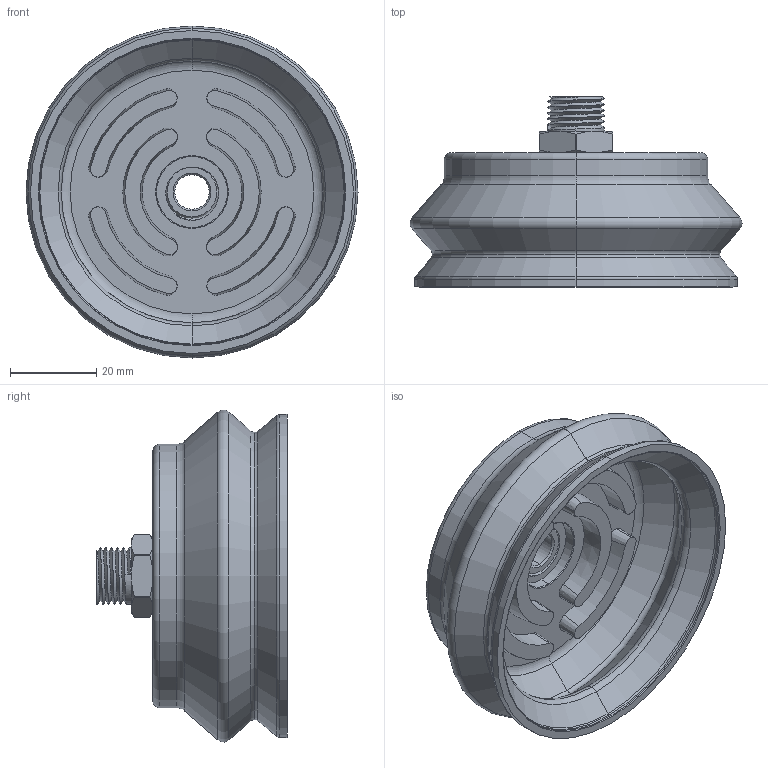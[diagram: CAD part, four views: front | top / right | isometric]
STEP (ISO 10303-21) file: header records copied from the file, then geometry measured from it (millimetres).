
FILE_DESCRIPTION (( 'STEP AP203' ), '1' );
FILE_NAME ('8SB 75--M14.STEP', '2018-07-09T09:58:52', ( '' ), ( '' ), 'SwSTEP 2.0', 'SolidWorks 2016', '' );
FILE_SCHEMA (( 'CONFIG_CONTROL_DESIGN' ));
Length unit declared in the file: millimetre
Products named in the file (1): 8SB 75--M14
Bounding box: 77.12 x 44.16 x 77.12 mm (x, y, z)
Volume: 50938.8 mm3; surface area: 33526.1 mm2
Topology: 3 solids, 3 shells, 172 faces, 414 edges, 259 vertices
Faces by surface type: cylinder 46, cone 44, plane 28, bspline 28, torus 26
Entity records: 9115 total; most frequent: CARTESIAN_POINT 5359, ORIENTED_EDGE 828, DIRECTION 701, EDGE_CURVE 414, AXIS2_PLACEMENT_3D 307, VERTEX_POINT 259, EDGE_LOOP 189, FACE_OUTER_BOUND 172
